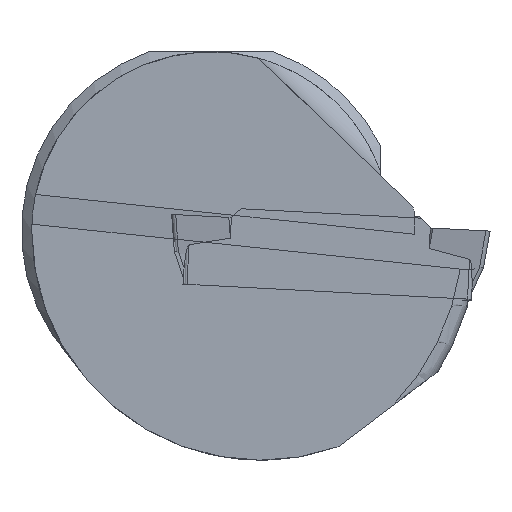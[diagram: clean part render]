
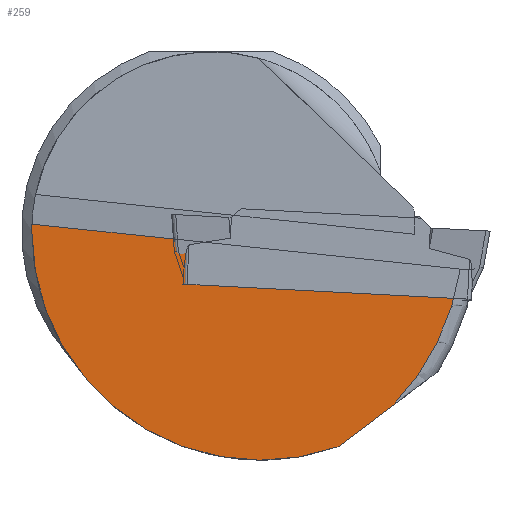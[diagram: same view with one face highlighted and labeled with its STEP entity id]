
A CAD part, left-side view. The second image highlights one B-rep face of the part: STEP entity #259.
In plain terms, the highlighted planar face has unit normal (-1, 0, 0).
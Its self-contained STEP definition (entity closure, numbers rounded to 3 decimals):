
#109=CIRCLE('',#1441,12.65);
#110=CIRCLE('',#1442,9.);
#111=CIRCLE('',#1443,11.5);
#259=ADVANCED_FACE('',(#375),#318,.F.);
#318=PLANE('',#1444);
#375=FACE_OUTER_BOUND('',#445,.T.);
#445=EDGE_LOOP('',(#696,#697,#698,#699,#700));
#696=ORIENTED_EDGE('',*,*,#1079,.T.);
#697=ORIENTED_EDGE('',*,*,#1080,.F.);
#698=ORIENTED_EDGE('',*,*,#1081,.T.);
#699=ORIENTED_EDGE('',*,*,#1082,.T.);
#700=ORIENTED_EDGE('',*,*,#1083,.F.);
#918=VERTEX_POINT('',#2160);
#919=VERTEX_POINT('',#2161);
#920=VERTEX_POINT('',#2163);
#921=VERTEX_POINT('',#2165);
#922=VERTEX_POINT('',#2167);
#1079=EDGE_CURVE('',#918,#919,#109,.T.);
#1080=EDGE_CURVE('',#920,#919,#1230,.T.);
#1081=EDGE_CURVE('',#920,#921,#110,.T.);
#1082=EDGE_CURVE('',#921,#922,#111,.T.);
#1083=EDGE_CURVE('',#918,#922,#1231,.T.);
#1230=LINE('',#2162,#1340);
#1231=LINE('',#2168,#1341);
#1340=VECTOR('',#1708,1.);
#1341=VECTOR('',#1713,1.);
#1441=AXIS2_PLACEMENT_3D('',#2159,#1706,#1707);
#1442=AXIS2_PLACEMENT_3D('',#2164,#1709,#1710);
#1443=AXIS2_PLACEMENT_3D('',#2166,#1711,#1712);
#1444=AXIS2_PLACEMENT_3D('',#2169,#1714,#1715);
#1706=DIRECTION('',(-1.,0.,0.));
#1707=DIRECTION('',(0.,0.,-1.));
#1708=DIRECTION('',(0.,-0.995,-0.105));
#1709=DIRECTION('',(-1.,0.,0.));
#1710=DIRECTION('',(0.,0.,-1.));
#1711=DIRECTION('',(-1.,0.,0.));
#1712=DIRECTION('',(0.,0.,-1.));
#1713=DIRECTION('',(0.,0.799,-0.602));
#1714=DIRECTION('',(1.,0.,0.));
#1715=DIRECTION('',(0.,0.,-1.));
#2159=CARTESIAN_POINT('',(0.25,14.,0.));
#2160=CARTESIAN_POINT('',(0.25,4.849,-8.734));
#2161=CARTESIAN_POINT('',(0.25,1.495,-1.909));
#2162=CARTESIAN_POINT('',(0.25,9.116,-1.108));
#2163=CARTESIAN_POINT('',(0.25,22.993,0.35));
#2164=CARTESIAN_POINT('',(0.25,14.,0.));
#2165=CARTESIAN_POINT('',(0.25,23.,0.));
#2166=CARTESIAN_POINT('',(0.25,11.5,0.));
#2167=CARTESIAN_POINT('',(0.25,7.63,-10.829));
#2168=CARTESIAN_POINT('',(0.25,3.299,-7.566));
#2169=CARTESIAN_POINT('',(0.25,9.,0.));
